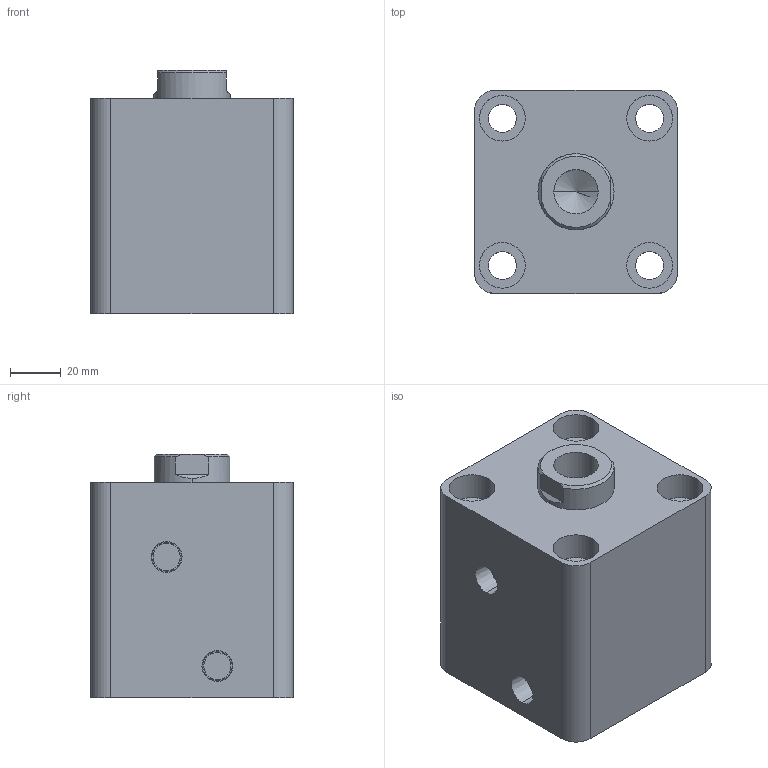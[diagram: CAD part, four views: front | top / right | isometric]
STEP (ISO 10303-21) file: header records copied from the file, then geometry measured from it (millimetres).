
FILE_DESCRIPTION (( 'STEP AP203' ), '1' );
FILE_NAME ('HTB-SD50-25N.STEP', '2019-10-07T07:07:20', ( '微软用户' ), ( '微软中国' ), 'SwSTEP 2.0', 'SolidWorks 2012', '' );
FILE_SCHEMA (( 'CONFIG_CONTROL_DESIGN' ));
Length unit declared in the file: millimetre
Products named in the file (3): HTB-SD50-25N; HTB-SD50-25N活塞杆; HTB-SD50-25掛极
Assembly tree (2 placements, depth 2):
  HTB-SD50-25N
    HTB-SD50-25掛极
    HTB-SD50-25N活塞杆
Bounding box: 80 x 80 x 96 mm (x, y, z)
Volume: 460252 mm3; surface area: 79372.6 mm2
Topology: 2 solids, 2 shells, 83 faces, 184 edges, 119 vertices
Faces by surface type: cylinder 42, plane 27, cone 8, torus 6
Entity records: 2655 total; most frequent: DIRECTION 456, CARTESIAN_POINT 417, ORIENTED_EDGE 364, AXIS2_PLACEMENT_3D 194, EDGE_CURVE 182, VERTEX_POINT 119, EDGE_LOOP 107, CIRCLE 106
